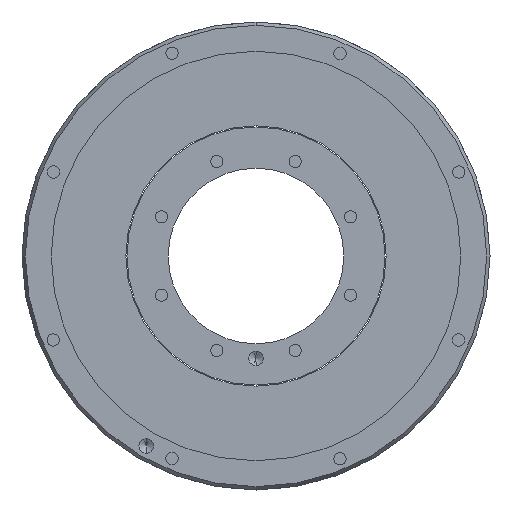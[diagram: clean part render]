
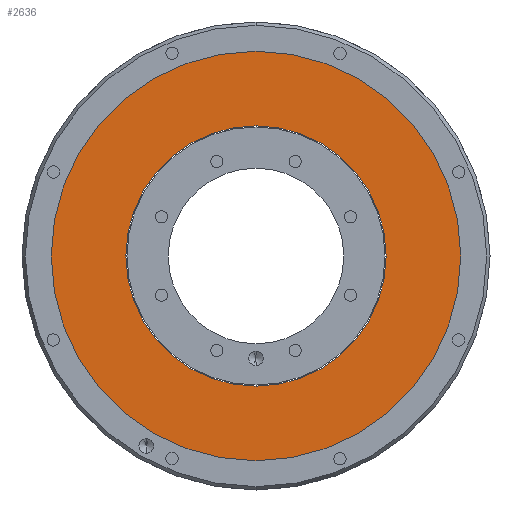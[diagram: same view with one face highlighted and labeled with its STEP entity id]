
A CAD part, front view. The second image highlights one B-rep face of the part: STEP entity #2636.
In plain terms, the highlighted planar face has unit normal (0, -1, 0).
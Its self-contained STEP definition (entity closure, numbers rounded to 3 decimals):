
#45 = FACE_OUTER_BOUND ( 'NONE', #2535, .T. ) ;
#95 = AXIS2_PLACEMENT_3D ( 'NONE', #712, #5527, #2982 ) ;
#695 = VERTEX_POINT ( 'NONE', #2699 ) ;
#712 = CARTESIAN_POINT ( 'NONE',  ( 0., 1., 0. ) ) ;
#867 = AXIS2_PLACEMENT_3D ( 'NONE', #2401, #3300, #5418 ) ;
#1024 = VERTEX_POINT ( 'NONE', #2640 ) ;
#1409 = ORIENTED_EDGE ( 'NONE', *, *, #1451, .T. ) ;
#1451 = EDGE_CURVE ( 'NONE', #1024, #1742, #4622, .T. ) ;
#1470 = ORIENTED_EDGE ( 'NONE', *, *, #3148, .F. ) ;
#1609 = ORIENTED_EDGE ( 'NONE', *, *, #2615, .T. ) ;
#1668 = DIRECTION ( 'NONE',  ( 0., -1., 0. ) ) ;
#1688 = CARTESIAN_POINT ( 'NONE',  ( 0., 1., 0. ) ) ;
#1742 = VERTEX_POINT ( 'NONE', #4839 ) ;
#1748 = PLANE ( 'NONE',  #4403 ) ;
#1844 = AXIS2_PLACEMENT_3D ( 'NONE', #1688, #1668, #3870 ) ;
#2036 = AXIS2_PLACEMENT_3D ( 'NONE', #3302, #5105, #4673 ) ;
#2050 = CIRCLE ( 'NONE', #1844, 70. ) ;
#2401 = CARTESIAN_POINT ( 'NONE',  ( 0., 1., 0. ) ) ;
#2533 = CIRCLE ( 'NONE', #2036, 44.5 ) ;
#2535 = EDGE_LOOP ( 'NONE', ( #1609, #1409 ) ) ;
#2615 = EDGE_CURVE ( 'NONE', #1742, #1024, #2050, .T. ) ;
#2636 = ADVANCED_FACE ( 'NONE', ( #45, #3869 ), #1748, .T. ) ;
#2640 = CARTESIAN_POINT ( 'NONE',  ( 0., 1., 70. ) ) ;
#2699 = CARTESIAN_POINT ( 'NONE',  ( 0., 1., 44.5 ) ) ;
#2982 = DIRECTION ( 'NONE',  ( 0., 0., -1. ) ) ;
#3148 = EDGE_CURVE ( 'NONE', #695, #4570, #5411, .T. ) ;
#3300 = DIRECTION ( 'NONE',  ( 0., -1., 0. ) ) ;
#3302 = CARTESIAN_POINT ( 'NONE',  ( 0., 1., 0. ) ) ;
#3426 = DIRECTION ( 'NONE',  ( 0., 0., -1. ) ) ;
#3609 = EDGE_LOOP ( 'NONE', ( #4611, #1470 ) ) ;
#3869 = FACE_BOUND ( 'NONE', #3609, .T. ) ;
#3870 = DIRECTION ( 'NONE',  ( 0., 0., -1. ) ) ;
#4230 = EDGE_CURVE ( 'NONE', #4570, #695, #2533, .T. ) ;
#4318 = DIRECTION ( 'NONE',  ( 0., -1., 0. ) ) ;
#4403 = AXIS2_PLACEMENT_3D ( 'NONE', #5640, #4318, #3426 ) ;
#4570 = VERTEX_POINT ( 'NONE', #4826 ) ;
#4611 = ORIENTED_EDGE ( 'NONE', *, *, #4230, .F. ) ;
#4622 = CIRCLE ( 'NONE', #867, 70. ) ;
#4673 = DIRECTION ( 'NONE',  ( 0., 0., -1. ) ) ;
#4826 = CARTESIAN_POINT ( 'NONE',  ( 0., 1., -44.5 ) ) ;
#4839 = CARTESIAN_POINT ( 'NONE',  ( 0., 1., -70. ) ) ;
#5105 = DIRECTION ( 'NONE',  ( 0., -1., 0. ) ) ;
#5411 = CIRCLE ( 'NONE', #95, 44.5 ) ;
#5418 = DIRECTION ( 'NONE',  ( 0., 0., -1. ) ) ;
#5527 = DIRECTION ( 'NONE',  ( 0., -1., 0. ) ) ;
#5640 = CARTESIAN_POINT ( 'NONE',  ( 44.5, 1., 0. ) ) ;
